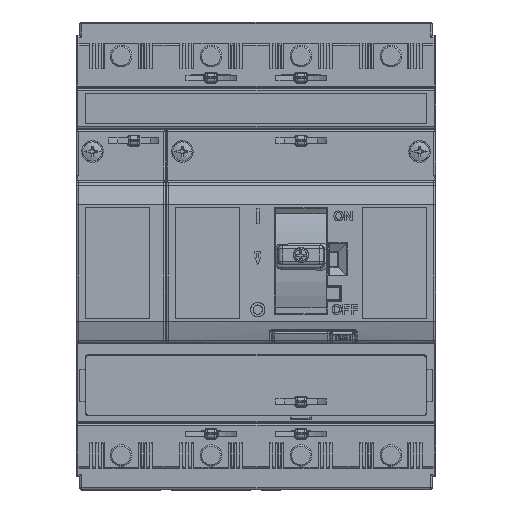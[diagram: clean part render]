
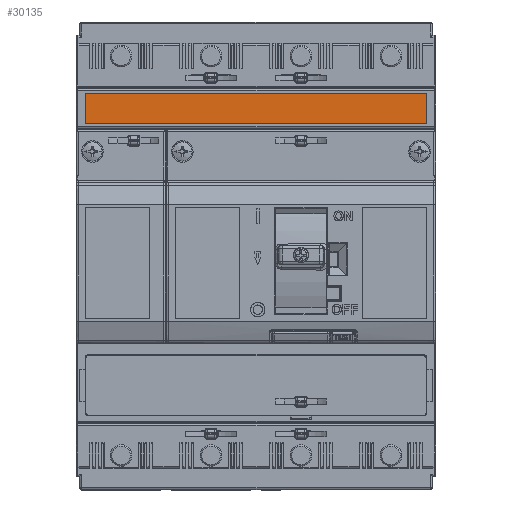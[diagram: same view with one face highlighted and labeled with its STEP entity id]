
A CAD part, top view. The second image highlights one B-rep face of the part: STEP entity #30135.
In plain terms, the highlighted planar face has unit normal (0, 0, 1).
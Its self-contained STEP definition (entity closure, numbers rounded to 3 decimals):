
#16705 = VERTEX_POINT ( 'NONE', #66788 ) ;
#30135 = ADVANCED_FACE ( 'NONE', ( #232239 ), #232185, .F. ) ;
#62854 = CARTESIAN_POINT ( 'NONE',  ( 20.302, 34.186, 39.355 ) ) ;
#62858 = CARTESIAN_POINT ( 'NONE',  ( 20.323, 34.187, 39.355 ) ) ;
#62898 = CARTESIAN_POINT ( 'NONE',  ( 20.343, 34.189, 39.355 ) ) ;
#62901 = CARTESIAN_POINT ( 'NONE',  ( 20.381, 34.196, 39.355 ) ) ;
#62902 = CARTESIAN_POINT ( 'NONE',  ( 20.397, 34.201, 39.355 ) ) ;
#62905 = CARTESIAN_POINT ( 'NONE',  ( 20.436, 34.218, 39.355 ) ) ;
#62908 = CARTESIAN_POINT ( 'NONE',  ( 20.453, 34.227, 39.355 ) ) ;
#62910 = CARTESIAN_POINT ( 'NONE',  ( 20.486, 34.249, 39.355 ) ) ;
#62913 = CARTESIAN_POINT ( 'NONE',  ( 20.499, 34.26, 39.355 ) ) ;
#62915 = CARTESIAN_POINT ( 'NONE',  ( 20.571, 34.332, 39.355 ) ) ;
#62918 = CARTESIAN_POINT ( 'NONE',  ( 20.6, 34.403, 39.355 ) ) ;
#62921 = CARTESIAN_POINT ( 'NONE',  ( 20.602, 34.486, 39.355 ) ) ;
#62925 = CARTESIAN_POINT ( 'NONE',  ( 20.602, 42.386, 39.355 ) ) ;
#62932 = CARTESIAN_POINT ( 'NONE',  ( 20.601, 42.407, 39.355 ) ) ;
#62946 = LINE ( 'NONE', #62953, #154222 ) ;
#62953 = CARTESIAN_POINT ( 'NONE',  ( 20.602, 42.386, 39.355 ) ) ;
#62957 = DIRECTION ( 'NONE',  ( 0., 1., 0. ) ) ;
#62974 = CARTESIAN_POINT ( 'NONE',  ( 20.599, 42.426, 39.355 ) ) ;
#62976 = CARTESIAN_POINT ( 'NONE',  ( 20.592, 42.465, 39.355 ) ) ;
#62979 = CARTESIAN_POINT ( 'NONE',  ( 20.586, 42.482, 39.355 ) ) ;
#62982 = CARTESIAN_POINT ( 'NONE',  ( 20.57, 42.52, 39.355 ) ) ;
#62984 = CARTESIAN_POINT ( 'NONE',  ( 20.561, 42.538, 39.355 ) ) ;
#62986 = CARTESIAN_POINT ( 'NONE',  ( 20.54, 42.57, 39.355 ) ) ;
#62988 = CARTESIAN_POINT ( 'NONE',  ( 20.528, 42.584, 39.355 ) ) ;
#62992 = CARTESIAN_POINT ( 'NONE',  ( 20.455, 42.656, 39.355 ) ) ;
#62996 = CARTESIAN_POINT ( 'NONE',  ( 20.385, 42.686, 39.355 ) ) ;
#62999 = CARTESIAN_POINT ( 'NONE',  ( 20.302, 42.686, 39.355 ) ) ;
#63002 = CARTESIAN_POINT ( 'NONE',  ( -74.398, 42.386, 39.355 ) ) ;
#63005 = LINE ( 'NONE', #63023, #154226 ) ;
#63008 = CARTESIAN_POINT ( 'NONE',  ( -74.398, 42.465, 39.355 ) ) ;
#63023 = CARTESIAN_POINT ( 'NONE',  ( -49.098, 42.686, 39.355 ) ) ;
#63030 = DIRECTION ( 'NONE',  ( -1., 0., 0. ) ) ;
#63047 = CARTESIAN_POINT ( 'NONE',  ( -74.366, 42.543, 39.355 ) ) ;
#63049 = CARTESIAN_POINT ( 'NONE',  ( -74.255, 42.654, 39.355 ) ) ;
#63051 = CARTESIAN_POINT ( 'NONE',  ( -74.177, 42.686, 39.355 ) ) ;
#63054 = CARTESIAN_POINT ( 'NONE',  ( -74.098, 42.686, 39.355 ) ) ;
#63057 = CARTESIAN_POINT ( 'NONE',  ( -74.398, 34.486, 39.355 ) ) ;
#63063 = CARTESIAN_POINT ( 'NONE',  ( -74.396, 34.4, 39.355 ) ) ;
#63076 = LINE ( 'NONE', #63083, #154242 ) ;
#63083 = CARTESIAN_POINT ( 'NONE',  ( -74.398, 42.386, 39.355 ) ) ;
#63087 = DIRECTION ( 'NONE',  ( 0., -1., 0. ) ) ;
#63104 = CARTESIAN_POINT ( 'NONE',  ( -49.098, 34.186, 39.355 ) ) ;
#63107 = CARTESIAN_POINT ( 'NONE',  ( -74.369, 34.331, 39.355 ) ) ;
#63109 = CARTESIAN_POINT ( 'NONE',  ( -74.253, 34.218, 39.355 ) ) ;
#63112 = CARTESIAN_POINT ( 'NONE',  ( -74.182, 34.188, 39.355 ) ) ;
#63115 = CARTESIAN_POINT ( 'NONE',  ( -74.098, 34.186, 39.355 ) ) ;
#63124 = LINE ( 'NONE', #63104, #154247 ) ;
#63141 = DIRECTION ( 'NONE',  ( 1., 0., 0. ) ) ;
#66788 = CARTESIAN_POINT ( 'NONE',  ( 20.302, 34.186, 39.355 ) ) ;
#76651 = B_SPLINE_CURVE_WITH_KNOTS ( 'NONE', 3,
 ( #63002, #63008, #63047, #63049, #63051, #63054 ),
 .UNSPECIFIED., .F., .F.,
 ( 4, 2, 4 ),
 ( 0., 0.5, 1. ),
 .UNSPECIFIED. ) ;
#77465 = B_SPLINE_CURVE_WITH_KNOTS ( 'NONE', 3,
 ( #62854, #62858, #62898, #62901, #62902, #62905, #62908, #62910, #62913, #62915, #62918, #62921 ),
 .UNSPECIFIED., .F., .F.,
 ( 4, 2, 2, 2, 2, 4 ),
 ( 0., 0.125, 0.25, 0.375, 0.5, 1. ),
 .UNSPECIFIED. ) ;
#78311 = B_SPLINE_CURVE_WITH_KNOTS ( 'NONE', 3,
 ( #62925, #62932, #62974, #62976, #62979, #62982, #62984, #62986, #62988, #62992, #62996, #62999 ),
 .UNSPECIFIED., .F., .F.,
 ( 4, 2, 2, 2, 2, 4 ),
 ( 0., 0.125, 0.25, 0.375, 0.5, 1. ),
 .UNSPECIFIED. ) ;
#78316 = B_SPLINE_CURVE_WITH_KNOTS ( 'NONE', 3,
 ( #63057, #63063, #63107, #63109, #63112, #63115 ),
 .UNSPECIFIED., .F., .F.,
 ( 4, 2, 4 ),
 ( 0., 0.5, 1. ),
 .UNSPECIFIED. ) ;
#154222 = VECTOR ( 'NONE', #62957, 1000. ) ;
#154226 = VECTOR ( 'NONE', #63030, 1000. ) ;
#154242 = VECTOR ( 'NONE', #63087, 1000. ) ;
#154247 = VECTOR ( 'NONE', #63141, 1000. ) ;
#163283 = ORIENTED_EDGE ( 'NONE', *, *, #198199, .T. ) ;
#163285 = ORIENTED_EDGE ( 'NONE', *, *, #198202, .T. ) ;
#163286 = ORIENTED_EDGE ( 'NONE', *, *, #198206, .T. ) ;
#163287 = ORIENTED_EDGE ( 'NONE', *, *, #198209, .T. ) ;
#163289 = ORIENTED_EDGE ( 'NONE', *, *, #198212, .F. ) ;
#163290 = ORIENTED_EDGE ( 'NONE', *, *, #198215, .T. ) ;
#163291 = ORIENTED_EDGE ( 'NONE', *, *, #198218, .T. ) ;
#163292 = ORIENTED_EDGE ( 'NONE', *, *, #198221, .T. ) ;
#180522 = VERTEX_POINT ( 'NONE', #184123 ) ;
#180525 = VERTEX_POINT ( 'NONE', #184126 ) ;
#180531 = VERTEX_POINT ( 'NONE', #184130 ) ;
#180535 = VERTEX_POINT ( 'NONE', #184133 ) ;
#180538 = VERTEX_POINT ( 'NONE', #184135 ) ;
#180543 = VERTEX_POINT ( 'NONE', #184138 ) ;
#180546 = VERTEX_POINT ( 'NONE', #184140 ) ;
#184123 = CARTESIAN_POINT ( 'NONE',  ( 20.602, 34.486, 39.355 ) ) ;
#184126 = CARTESIAN_POINT ( 'NONE',  ( -74.398, 42.386, 39.355 ) ) ;
#184130 = CARTESIAN_POINT ( 'NONE',  ( 20.602, 42.386, 39.355 ) ) ;
#184133 = CARTESIAN_POINT ( 'NONE',  ( 20.302, 42.686, 39.355 ) ) ;
#184135 = CARTESIAN_POINT ( 'NONE',  ( -74.098, 42.686, 39.355 ) ) ;
#184138 = CARTESIAN_POINT ( 'NONE',  ( -74.398, 34.486, 39.355 ) ) ;
#184140 = CARTESIAN_POINT ( 'NONE',  ( -74.098, 34.186, 39.355 ) ) ;
#198199 = EDGE_CURVE ( 'NONE', #16705, #180522, #77465, .T. ) ;
#198202 = EDGE_CURVE ( 'NONE', #180522, #180531, #62946, .T. ) ;
#198206 = EDGE_CURVE ( 'NONE', #180531, #180535, #78311, .T. ) ;
#198209 = EDGE_CURVE ( 'NONE', #180535, #180538, #63005, .T. ) ;
#198212 = EDGE_CURVE ( 'NONE', #180525, #180538, #76651, .T. ) ;
#198215 = EDGE_CURVE ( 'NONE', #180525, #180543, #63076, .T. ) ;
#198218 = EDGE_CURVE ( 'NONE', #180543, #180546, #78316, .T. ) ;
#198221 = EDGE_CURVE ( 'NONE', #180546, #16705, #63124, .T. ) ;
#220172 = AXIS2_PLACEMENT_3D ( 'NONE', #232277, #232279, #232282 ) ;
#232185 = PLANE ( 'NONE',  #220172 ) ;
#232239 = FACE_OUTER_BOUND ( 'NONE', #233456, .T. ) ;
#232277 = CARTESIAN_POINT ( 'NONE',  ( -49.098, 42.386, 39.355 ) ) ;
#232279 = DIRECTION ( 'NONE',  ( 0., 0., -1. ) ) ;
#232282 = DIRECTION ( 'NONE',  ( -1., 0., 0. ) ) ;
#233456 = EDGE_LOOP ( 'NONE', ( #163283, #163285, #163286, #163287, #163289, #163290, #163291, #163292 ) ) ;
